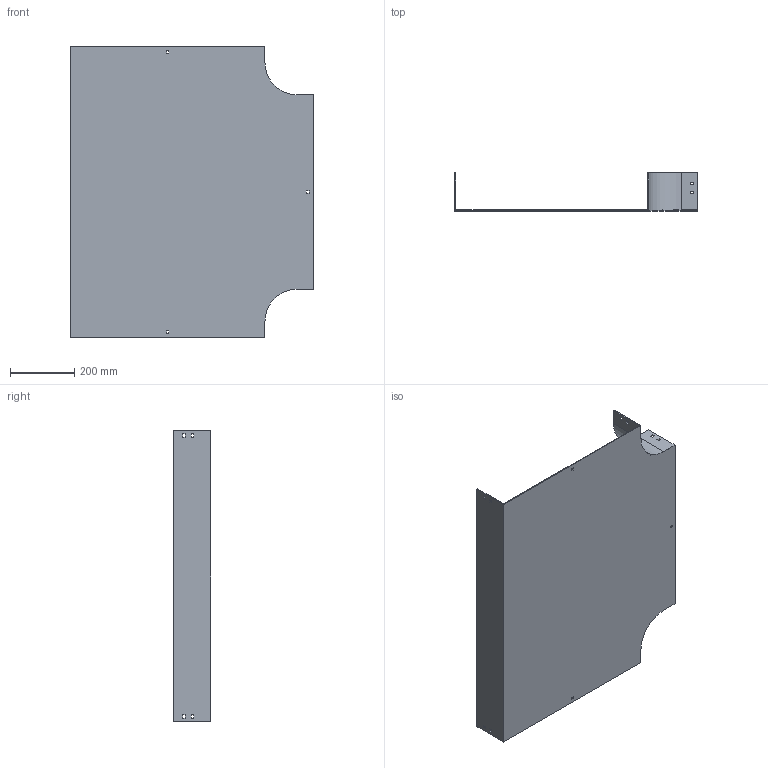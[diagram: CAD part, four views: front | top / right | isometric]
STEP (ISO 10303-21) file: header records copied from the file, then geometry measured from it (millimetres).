
FILE_DESCRIPTION (( 'STEP AP214' ), '1' );
FILE_NAME ('15B1J600.step', '2025-02-21T09:53:55', ( '' ), ( '' ), 'SwSTEP 2.0', 'SolidWorks 2023', '' );
FILE_SCHEMA (( 'AUTOMOTIVE_DESIGN' ));
Length unit declared in the file: millimetre
Products named in the file (1): 15B1J600
Bounding box: 754 x 117.5 x 904 mm (x, y, z)
Volume: 2807663 mm3; surface area: 1619831.9 mm2
Topology: 1 solids, 1 shells, 82 faces, 240 edges, 160 vertices
Faces by surface type: plane 78, cylinder 4
Entity records: 2755 total; most frequent: CARTESIAN_POINT 483, ORIENTED_EDGE 480, DIRECTION 414, EDGE_CURVE 240, VECTOR 232, LINE 232, VERTEX_POINT 160, EDGE_LOOP 112
